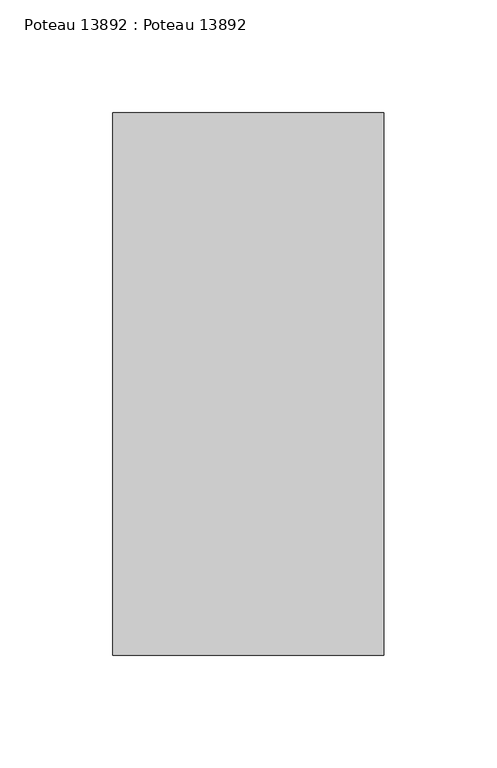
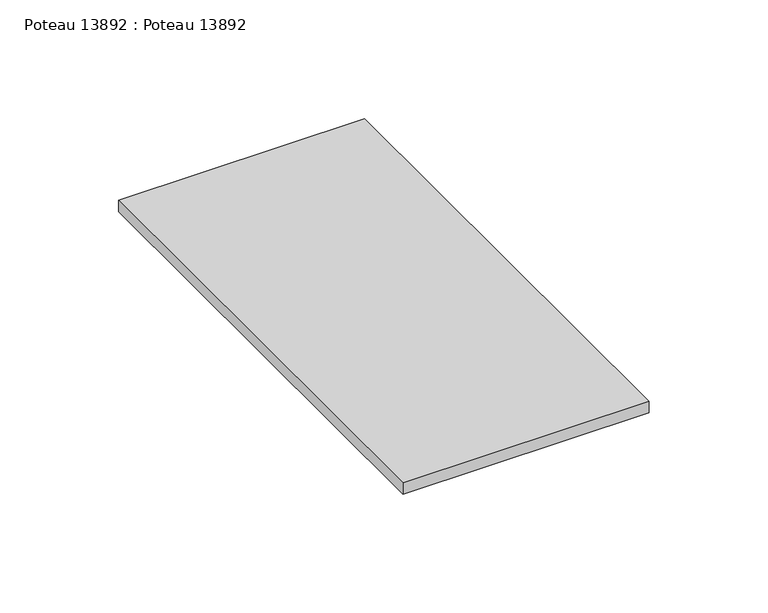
"""IFC4 building model written with IfcOpenShell, lengths in millimetres: beam geometry, Poteau 13892 : Poteau 13892."""

from ifc_helpers import new_model, si_unit, frame, origin, place, context, project, spatial, polyline, outline, extrude, source, transform, mapped, element, save


def poteau_13892_poteau_13892_4dcbb006(model_context):
    return source(origin(), model_context, "Body", "SweptSolid", [
        extrude(outline(polyline([(3772.4999999, 95.0), (3772.4999999, -145.0), (3652.4999999, -145.0), (3652.4999999, 95.0), (3772.4999999, 95.0)])), frame((0.0, 0.0, 7325.3134819), z_axis=(0.0, 0.0, 1.0), x_axis=(1.0, 0.0, 0.0)), (0.0, 0.0, 1.0), 6.0),
    ])


if __name__ == "__main__":
    model = new_model("IFC4")
    model_context = context("Model", 3, world=origin())
    ifc_project = project(units=[si_unit("LENGTHUNIT", "METRE", prefix="MILLI")], contexts=[model_context])
    site = spatial("IfcSite", under=ifc_project)
    building = spatial("IfcBuilding", under=site)
    placement = place(None, origin())
    poteau_13892_poteau_13892_shape = poteau_13892_poteau_13892_4dcbb006(model_context)
    element("IfcBeam", 1, ObjectType="Poteau 13892 : Poteau 13892", at=placement, inside=building, context=model_context, shape_type="MappedRepresentation", body=[
        mapped(poteau_13892_poteau_13892_shape, transform((0.0, 0.0, 0.0), x_axis=(1.0, 0.0, 0.0), y_axis=(0.0, 1.0, 0.0), z_axis=(0.0, 0.0, 1.0))),
    ])
    save(model, "model.ifc")
